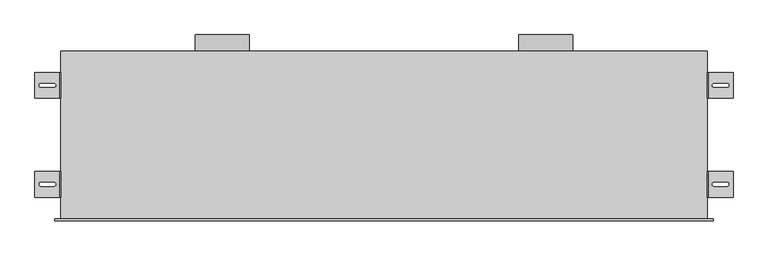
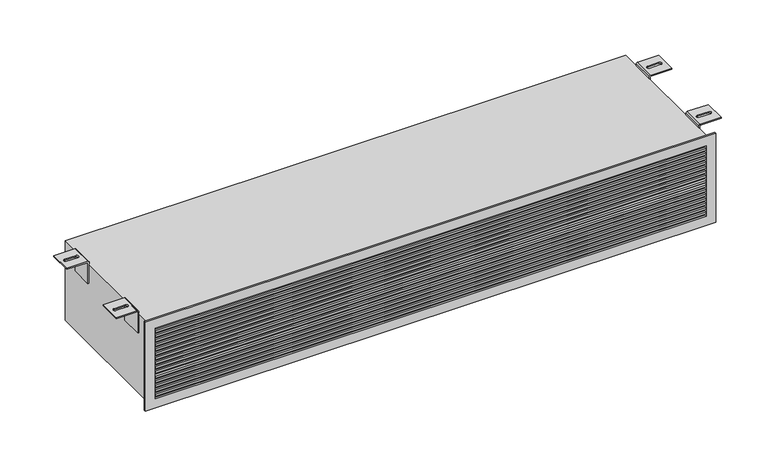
"""IFC4 building model written with IfcOpenShell, lengths in millimetres: air terminal geometry, EOL - Mural - 2 piquages : EOL-M2x125-1500x225-2."""

from ifc_helpers import new_model, si_unit, point, frame, frame_2d, origin, place, context, project, spatial, polyline, circle_curve, ellipse_curve, trimmed, segment, composite_curve, outline, extrude, source, transform, mapped, element, save
from ifc_brep_helpers import plane_surface, cylinder_surface, revolved_surface, extruded_surface, advanced_brep


def air_terminal_dda5334e(model_context):
    return source(origin(), model_context, "Body", "SolidModel", [
        advanced_brep(
        [(754.0013366, 110.0, 121.5), (810.0, 110.0, 121.5), (810.0, 110.0, 118.5), (754.0, 110.0, 118.5), (753.0, 110.0, 117.5), (753.0, 110.0, 58.5), (750.0, 110.0, 58.5), (750.0, 110.0, 117.4986634), (754.0013366, 50.0, 121.5), (750.0, 50.0, 117.4986634), (750.0, 50.0, 58.5), (753.0, 50.0, 58.5), (753.0, 50.0, 117.5), (754.0, 50.0, 118.5), (810.0, 50.0, 118.5), (810.0, 50.0, 121.5), (796.0287952, 75.4804328, 121.5), (766.0287952, 75.4804328, 121.5), (766.0287952, 84.4804328, 121.5), (796.0287952, 84.4804328, 121.5), (766.0287952, 75.4804328, 118.5), (796.0287952, 75.4804328, 118.5), (796.0287952, 84.4804328, 118.5), (766.0287952, 84.4804328, 118.5)],
        [
            (0, 1),
            (1, 2),
            (2, 3),
            (3, 4, circle_curve(frame((754.0, 110.0, 117.5), z_axis=(0.0, -1.0, 0.0), x_axis=(-1.0000000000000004, 0.0, 0.0)), 1.0)),
            (4, 5),
            (5, 6),
            (6, 7),
            (7, 0, circle_curve(frame((754.0013366, 110.0, 117.4986634), z_axis=(0.0, 1.0, 0.0), x_axis=(-1.0000000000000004, 0.0, 0.0)), 4.0013366)),
            (8, 9, circle_curve(frame((754.0013366, 50.0, 117.4986634), z_axis=(0.0, -1.0, 0.0), x_axis=(-1.0000000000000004, 0.0, 0.0)), 4.0013366)),
            (9, 10),
            (10, 11),
            (11, 12),
            (12, 13, circle_curve(frame((754.0, 50.0, 117.5), z_axis=(0.0, 1.0, 0.0), x_axis=(-1.0000000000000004, 0.0, 0.0)), 1.0)),
            (13, 14),
            (14, 15),
            (15, 8),
            (0, 8),
            (15, 1),
            (16, 17),
            (17, 18, circle_curve(frame((766.0287952, 79.9804328, 121.5), z_axis=(0.0, 0.0, -1.0), x_axis=(0.0, -1.0, 0.0)), 4.5)),
            (18, 19),
            (19, 16, circle_curve(frame((796.0287952, 79.9804328, 121.5), z_axis=(0.0, 0.0, -1.0), x_axis=(0.0, -1.0, 0.0)), 4.5)),
            (14, 2),
            (13, 3),
            (20, 21),
            (21, 22, ellipse_curve(frame((796.0287952, 79.9804328, 118.5), z_axis=(0.0, 0.0, 1.0), x_axis=(0.0, -1.0, 0.0)), 4.5, 4.5)),
            (22, 23),
            (23, 20, ellipse_curve(frame((766.0287952, 79.9804328, 118.5), z_axis=(0.0, 0.0, 1.0), x_axis=(0.0, -1.0, 0.0)), 4.5, 4.5)),
            (12, 4),
            (11, 5),
            (10, 6),
            (9, 7),
            (16, 21),
            (20, 17),
            (19, 22),
            (18, 23),
        ],
        [
            plane_surface(frame((810.0, 110.0, 121.5), z_axis=(0.0, 1.0, 0.0), x_axis=(1.0, 0.0, 0.0))),
            plane_surface(frame((810.0, 50.0, 121.5), z_axis=(0.0, -1.0, 0.0), x_axis=(-1.0, 0.0, 0.0))),
            plane_surface(frame((754.0013366, 110.0, 121.5), z_axis=(0.0, 0.0, 1.0), x_axis=(0.0, -1.0, 0.0))),
            plane_surface(frame((810.0, 110.0, 121.5), z_axis=(1.0, 0.0, 0.0), x_axis=(0.0, -1.0, 0.0))),
            plane_surface(frame((810.0, 110.0, 118.5), z_axis=(0.0, 0.0, -1.0), x_axis=(0.0, -1.0, 0.0))),
            revolved_surface(polyline([(753.0, 50.0, 117.5), (753.0, 110.00000000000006, 117.5)]), (754.0, 50.0, 117.5), (0.0, -1.0000000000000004, 0.0)),
            plane_surface(frame((753.0, 110.0, 117.5), z_axis=(1.0, 0.0, 0.0), x_axis=(0.0, -1.0, 0.0))),
            plane_surface(frame((753.0, 110.0, 58.5), z_axis=(0.0, 0.0, -1.0), x_axis=(0.0, -1.0, 0.0))),
            plane_surface(frame((750.0, 110.0, 58.5), z_axis=(-1.0, 0.0, 0.0), x_axis=(0.0, -1.0, 0.0))),
            cylinder_surface(frame((754.0013366, 50.0, 117.4986634), z_axis=(0.0, 1.0000000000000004, 0.0), x_axis=(-1.0000000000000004, 0.0, 0.0)), 4.0013366),
            plane_surface(frame((766.0287952, 75.4804328, 121.5), z_axis=(0.0, 1.0, 0.0), x_axis=(0.0, 0.0, -1.0))),
            extruded_surface(trimmed(ellipse_curve(frame((796.0287952, 79.9804328, 118.5), z_axis=(0.0, 0.0, 1.0), x_axis=(0.0, -1.0, 0.0)), 4.5, 4.5), [point((796.0287952, 75.4804328, 118.5))], [point((796.0287952, 84.4804328, 118.5))], True, "CARTESIAN"), (0.0, 0.0, -3.0), 3.0),
            plane_surface(frame((796.0287952, 84.4804328, 121.5), z_axis=(0.0, -1.0, 0.0), x_axis=(0.0, 0.0, -1.0))),
            extruded_surface(trimmed(ellipse_curve(frame((766.0287952, 79.9804328, 118.5), z_axis=(0.0, 0.0, 1.0), x_axis=(0.0, -1.0, 0.0)), 4.5, 4.5), [point((766.0287952, 84.4804328, 118.5))], [point((766.0287952, 75.4804328, 118.5))], True, "CARTESIAN"), (0.0, 0.0, -3.0), 3.0),
        ],
        [
            (0, [[1, 2, 3, 4, 5, 6, 7, 8]]),
            (1, [[9, 10, 11, 12, 13, 14, 15, 16]]),
            (2, [[-1, 17, -16, 18], [19, 20, 21, 22]]),
            (3, [[-2, -18, -15, 23]]),
            (4, [[-3, -23, -14, 24], [25, 26, 27, 28]]),
            (5, [[-4, -24, -13, 29]]),
            (6, [[-5, -29, -12, 30]]),
            (7, [[-6, -30, -11, 31]]),
            (8, [[-7, -31, -10, 32]]),
            (9, [[-8, -32, -9, -17]]),
            (10, [[33, -25, 34, -19]]),
            (11, [[-33, -22, 35, -26]]),
            (12, [[-35, -21, 36, -27]]),
            (13, [[-34, -28, -36, -20]]),
        ],
    ),
        advanced_brep(
        [(754.0013366, 340.0, 121.5), (810.0, 340.0, 121.5), (810.0, 340.0, 118.5), (754.0, 340.0, 118.5), (753.0, 340.0, 117.5), (753.0, 340.0, 58.5), (750.0, 340.0, 58.5), (750.0, 340.0, 117.4986634), (754.0013366, 280.0, 121.5), (750.0, 280.0, 117.4986634), (750.0, 280.0, 58.5), (753.0, 280.0, 58.5), (753.0, 280.0, 117.5), (754.0, 280.0, 118.5), (810.0, 280.0, 118.5), (810.0, 280.0, 121.5), (796.0287952, 305.4804328, 121.5), (766.0287952, 305.4804328, 121.5), (766.0287952, 314.4804328, 121.5), (796.0287952, 314.4804328, 121.5), (766.0287952, 305.4804328, 118.5), (796.0287952, 305.4804328, 118.5), (796.0287952, 314.4804328, 118.5), (766.0287952, 314.4804328, 118.5)],
        [
            (0, 1),
            (1, 2),
            (2, 3),
            (3, 4, circle_curve(frame((754.0, 340.0, 117.5), z_axis=(0.0, -1.0, 0.0), x_axis=(-1.0, 0.0, 0.0)), 1.0)),
            (4, 5),
            (5, 6),
            (6, 7),
            (7, 0, circle_curve(frame((754.0013366, 340.0, 117.4986634), z_axis=(0.0, 1.0, 0.0), x_axis=(-1.0, 0.0, 0.0)), 4.0013366)),
            (8, 9, circle_curve(frame((754.0013366, 280.0, 117.4986634), z_axis=(0.0, -1.0, 0.0), x_axis=(-1.0, 0.0, 0.0)), 4.0013366)),
            (9, 10),
            (10, 11),
            (11, 12),
            (12, 13, circle_curve(frame((754.0, 280.0, 117.5), z_axis=(0.0, 1.0, 0.0), x_axis=(-1.0, 0.0, 0.0)), 1.0)),
            (13, 14),
            (14, 15),
            (15, 8),
            (0, 8),
            (15, 1),
            (16, 17),
            (17, 18, circle_curve(frame((766.0287952, 309.9804328, 121.5), z_axis=(0.0, 0.0, -1.0), x_axis=(0.0, -1.0, 0.0)), 4.5)),
            (18, 19),
            (19, 16, circle_curve(frame((796.0287952, 309.9804328, 121.5), z_axis=(0.0, 0.0, -1.0), x_axis=(0.0, -1.0, 0.0)), 4.5)),
            (14, 2),
            (13, 3),
            (20, 21),
            (21, 22, ellipse_curve(frame((796.0287952, 309.9804328, 118.5), z_axis=(0.0, 0.0, 1.0), x_axis=(0.0, -1.0, 0.0)), 4.5, 4.5)),
            (22, 23),
            (23, 20, ellipse_curve(frame((766.0287952, 309.9804328, 118.5), z_axis=(0.0, 0.0, 1.0), x_axis=(0.0, -1.0, 0.0)), 4.5, 4.5)),
            (12, 4),
            (11, 5),
            (10, 6),
            (9, 7),
            (16, 21),
            (20, 17),
            (19, 22),
            (18, 23),
        ],
        [
            plane_surface(frame((810.0, 340.0, 121.5), z_axis=(0.0, 1.0, 0.0), x_axis=(1.0, 0.0, 0.0))),
            plane_surface(frame((810.0, 280.0, 121.5), z_axis=(0.0, -1.0, 0.0), x_axis=(-1.0, 0.0, 0.0))),
            plane_surface(frame((754.0013366, 340.0, 121.5), z_axis=(0.0, 0.0, 1.0), x_axis=(0.0, -1.0, 0.0))),
            plane_surface(frame((810.0, 340.0, 121.5), z_axis=(1.0, 0.0, 0.0), x_axis=(0.0, -1.0, 0.0))),
            plane_surface(frame((810.0, 340.0, 118.5), z_axis=(0.0, 0.0, -1.0), x_axis=(0.0, -1.0, 0.0))),
            revolved_surface(polyline([(753.0, 280.0, 117.5), (753.0, 340.0, 117.5)]), (754.0, 280.0, 117.5), (0.0, -1.0, 0.0)),
            plane_surface(frame((753.0, 340.0, 117.5), z_axis=(1.0, 0.0, 0.0), x_axis=(0.0, -1.0, 0.0))),
            plane_surface(frame((753.0, 340.0, 58.5), z_axis=(0.0, 0.0, -1.0), x_axis=(0.0, -1.0, 0.0))),
            plane_surface(frame((750.0, 340.0, 58.5), z_axis=(-1.0, 0.0, 0.0), x_axis=(0.0, -1.0, 0.0))),
            cylinder_surface(frame((754.0013366, 280.0, 117.4986634), z_axis=(0.0, 1.0, 0.0), x_axis=(-1.0, 0.0, 0.0)), 4.0013366),
            plane_surface(frame((766.0287952, 305.4804328, 121.5), z_axis=(0.0, 1.0, 0.0), x_axis=(0.0, 0.0, -1.0))),
            extruded_surface(trimmed(ellipse_curve(frame((796.0287952, 309.9804328, 118.5), z_axis=(0.0, 0.0, 1.0), x_axis=(0.0, -1.0, 0.0)), 4.5, 4.5), [point((796.0287952, 305.4804328, 118.5))], [point((796.0287952, 314.4804328, 118.5))], True, "CARTESIAN"), (0.0, 0.0, -3.0), 3.0),
            plane_surface(frame((796.0287952, 314.4804328, 121.5), z_axis=(0.0, -1.0, 0.0), x_axis=(0.0, 0.0, -1.0))),
            extruded_surface(trimmed(ellipse_curve(frame((766.0287952, 309.9804328, 118.5), z_axis=(0.0, 0.0, 1.0), x_axis=(0.0, -1.0, 0.0)), 4.5, 4.5), [point((766.0287952, 314.4804328, 118.5))], [point((766.0287952, 305.4804328, 118.5))], True, "CARTESIAN"), (0.0, 0.0, -3.0), 3.0),
        ],
        [
            (0, [[1, 2, 3, 4, 5, 6, 7, 8]]),
            (1, [[9, 10, 11, 12, 13, 14, 15, 16]]),
            (2, [[-1, 17, -16, 18], [19, 20, 21, 22]]),
            (3, [[-2, -18, -15, 23]]),
            (4, [[-3, -23, -14, 24], [25, 26, 27, 28]]),
            (5, [[-4, -24, -13, 29]]),
            (6, [[-5, -29, -12, 30]]),
            (7, [[-6, -30, -11, 31]]),
            (8, [[-7, -31, -10, 32]]),
            (9, [[-8, -32, -9, -17]]),
            (10, [[33, -25, 34, -19]]),
            (11, [[-33, -22, 35, -26]]),
            (12, [[-35, -21, 36, -27]]),
            (13, [[-34, -28, -36, -20]]),
        ],
    ),
        advanced_brep(
        [(-754.0013366, 50.0, 121.5), (-810.0, 50.0, 121.5), (-810.0, 50.0, 118.5), (-754.0, 50.0, 118.5), (-753.0, 50.0, 117.5), (-753.0, 50.0, 58.5), (-750.0, 50.0, 58.5), (-750.0, 50.0, 117.4986634), (-754.0013366, 110.0, 121.5), (-750.0, 110.0, 117.4986634), (-750.0, 110.0, 58.5), (-753.0, 110.0, 58.5), (-753.0, 110.0, 117.5), (-754.0, 110.0, 118.5), (-810.0, 110.0, 118.5), (-810.0, 110.0, 121.5), (-796.0287952, 84.5195672, 121.5), (-766.0287952, 84.5195672, 121.5), (-766.0287952, 75.5195672, 121.5), (-796.0287952, 75.5195672, 121.5), (-766.0287952, 84.5195672, 118.5), (-796.0287952, 84.5195672, 118.5), (-796.0287952, 75.5195672, 118.5), (-766.0287952, 75.5195672, 118.5)],
        [
            (0, 1),
            (1, 2),
            (2, 3),
            (3, 4, circle_curve(frame((-754.0, 50.0, 117.5), z_axis=(0.0, 1.0, 0.0), x_axis=(1.0, 0.0, 0.0)), 1.0)),
            (4, 5),
            (5, 6),
            (6, 7),
            (7, 0, circle_curve(frame((-754.0013366, 50.0, 117.4986634), z_axis=(0.0, -1.0, 0.0), x_axis=(1.0, 0.0, 0.0)), 4.0013366)),
            (8, 9, circle_curve(frame((-754.0013366, 110.0, 117.4986634), z_axis=(0.0, 1.0, 0.0), x_axis=(1.0, 0.0, 0.0)), 4.0013366)),
            (9, 10),
            (10, 11),
            (11, 12),
            (12, 13, circle_curve(frame((-754.0, 110.0, 117.5), z_axis=(0.0, -1.0, 0.0), x_axis=(1.0, 0.0, 0.0)), 1.0)),
            (13, 14),
            (14, 15),
            (15, 8),
            (0, 8),
            (15, 1),
            (16, 17),
            (17, 18, circle_curve(frame((-766.0287952, 80.0195672, 121.5), z_axis=(0.0, 0.0, -1.0), x_axis=(0.0, 1.0, 0.0)), 4.5)),
            (18, 19),
            (19, 16, circle_curve(frame((-796.0287952, 80.0195672, 121.5), z_axis=(0.0, 0.0, -1.0), x_axis=(0.0, 1.0, 0.0)), 4.5)),
            (14, 2),
            (13, 3),
            (20, 21),
            (21, 22, ellipse_curve(frame((-796.0287952, 80.0195672, 118.5), z_axis=(0.0, 0.0, 1.0), x_axis=(0.0, 1.0, 0.0)), 4.5, 4.5)),
            (22, 23),
            (23, 20, ellipse_curve(frame((-766.0287952, 80.0195672, 118.5), z_axis=(0.0, 0.0, 1.0), x_axis=(0.0, 1.0, 0.0)), 4.5, 4.5)),
            (12, 4),
            (11, 5),
            (10, 6),
            (9, 7),
            (16, 21),
            (20, 17),
            (19, 22),
            (18, 23),
        ],
        [
            plane_surface(frame((-810.0, 50.0, 121.5), z_axis=(0.0, -1.0, 0.0), x_axis=(-1.0, 0.0, 0.0))),
            plane_surface(frame((-810.0, 110.0, 121.5), z_axis=(0.0, 1.0, 0.0), x_axis=(1.0, 0.0, 0.0))),
            plane_surface(frame((-754.0013366, 50.0, 121.5), z_axis=(0.0, 0.0, 1.0), x_axis=(0.0, 1.0, 0.0))),
            plane_surface(frame((-810.0, 50.0, 121.5), z_axis=(-1.0, 0.0, 0.0), x_axis=(0.0, 1.0, 0.0))),
            plane_surface(frame((-810.0, 50.0, 118.5), z_axis=(0.0, 0.0, -1.0), x_axis=(0.0, 1.0, 0.0))),
            revolved_surface(polyline([(-753.0, 110.0, 117.5), (-753.0, 50.0, 117.5)]), (-754.0, 110.0, 117.5), (0.0, 1.0, 0.0)),
            plane_surface(frame((-753.0, 50.0, 117.5), z_axis=(-1.0, 0.0, 0.0), x_axis=(0.0, 1.0, 0.0))),
            plane_surface(frame((-753.0, 50.0, 58.5), z_axis=(0.0, 0.0, -1.0), x_axis=(0.0, 1.0, 0.0))),
            plane_surface(frame((-750.0, 50.0, 58.5), z_axis=(1.0, 0.0, 0.0), x_axis=(0.0, 1.0, 0.0))),
            cylinder_surface(frame((-754.0013366, 110.0, 117.4986634), z_axis=(0.0, -1.0, 0.0), x_axis=(1.0, 0.0, 0.0)), 4.0013366),
            plane_surface(frame((-766.0287952, 84.5195672, 121.5), z_axis=(0.0, -1.0, 0.0), x_axis=(0.0, 0.0, -1.0))),
            extruded_surface(trimmed(ellipse_curve(frame((-796.0287952, 80.0195672, 118.5), z_axis=(0.0, 0.0, 1.0), x_axis=(0.0, 1.0, 0.0)), 4.5, 4.5), [point((-796.0287952, 84.5195672, 118.5))], [point((-796.0287952, 75.5195672, 118.5))], True, "CARTESIAN"), (0.0, 0.0, -3.0), 3.0),
            plane_surface(frame((-796.0287952, 75.5195672, 121.5), z_axis=(0.0, 1.0, 0.0), x_axis=(0.0, 0.0, -1.0))),
            extruded_surface(trimmed(ellipse_curve(frame((-766.0287952, 80.0195672, 118.5), z_axis=(0.0, 0.0, 1.0), x_axis=(0.0, 1.0, 0.0)), 4.5, 4.5), [point((-766.0287952, 75.5195672, 118.5))], [point((-766.0287952, 84.5195672, 118.5))], True, "CARTESIAN"), (0.0, 0.0, -3.0), 3.0),
        ],
        [
            (0, [[1, 2, 3, 4, 5, 6, 7, 8]]),
            (1, [[9, 10, 11, 12, 13, 14, 15, 16]]),
            (2, [[-1, 17, -16, 18], [19, 20, 21, 22]]),
            (3, [[-2, -18, -15, 23]]),
            (4, [[-3, -23, -14, 24], [25, 26, 27, 28]]),
            (5, [[-4, -24, -13, 29]]),
            (6, [[-5, -29, -12, 30]]),
            (7, [[-6, -30, -11, 31]]),
            (8, [[-7, -31, -10, 32]]),
            (9, [[-8, -32, -9, -17]]),
            (10, [[33, -25, 34, -19]]),
            (11, [[-33, -22, 35, -26]]),
            (12, [[-35, -21, 36, -27]]),
            (13, [[-34, -28, -36, -20]]),
        ],
    ),
        advanced_brep(
        [(-754.0013366, 280.0, 121.5), (-810.0, 280.0, 121.5), (-810.0, 280.0, 118.5), (-754.0, 280.0, 118.5), (-753.0, 280.0, 117.5), (-753.0, 280.0, 58.5), (-750.0, 280.0, 58.5), (-750.0, 280.0, 117.4986634), (-754.0013366, 340.0, 121.5), (-750.0, 340.0, 117.4986634), (-750.0, 340.0, 58.5), (-753.0, 340.0, 58.5), (-753.0, 340.0, 117.5), (-754.0, 340.0, 118.5), (-810.0, 340.0, 118.5), (-810.0, 340.0, 121.5), (-796.0287952, 314.5195672, 121.5), (-766.0287952, 314.5195672, 121.5), (-766.0287952, 305.5195672, 121.5), (-796.0287952, 305.5195672, 121.5), (-766.0287952, 314.5195672, 118.5), (-796.0287952, 314.5195672, 118.5), (-796.0287952, 305.5195672, 118.5), (-766.0287952, 305.5195672, 118.5)],
        [
            (0, 1),
            (1, 2),
            (2, 3),
            (3, 4, circle_curve(frame((-754.0, 280.0, 117.5), z_axis=(0.0, 1.0, 0.0), x_axis=(1.0, 0.0, 0.0)), 1.0)),
            (4, 5),
            (5, 6),
            (6, 7),
            (7, 0, circle_curve(frame((-754.0013366, 280.0, 117.4986634), z_axis=(0.0, -1.0, 0.0), x_axis=(1.0, 0.0, 0.0)), 4.0013366)),
            (8, 9, circle_curve(frame((-754.0013366, 340.0, 117.4986634), z_axis=(0.0, 1.0, 0.0), x_axis=(1.0, 0.0, 0.0)), 4.0013366)),
            (9, 10),
            (10, 11),
            (11, 12),
            (12, 13, circle_curve(frame((-754.0, 340.0, 117.5), z_axis=(0.0, -1.0, 0.0), x_axis=(1.0, 0.0, 0.0)), 1.0)),
            (13, 14),
            (14, 15),
            (15, 8),
            (0, 8),
            (15, 1),
            (16, 17),
            (17, 18, circle_curve(frame((-766.0287952, 310.0195672, 121.5), z_axis=(0.0, 0.0, -1.0), x_axis=(0.0, 1.0, 0.0)), 4.5)),
            (18, 19),
            (19, 16, circle_curve(frame((-796.0287952, 310.0195672, 121.5), z_axis=(0.0, 0.0, -1.0), x_axis=(0.0, 1.0, 0.0)), 4.5)),
            (14, 2),
            (13, 3),
            (20, 21),
            (21, 22, ellipse_curve(frame((-796.0287952, 310.0195672, 118.5), z_axis=(0.0, 0.0, 1.0), x_axis=(0.0, 1.0, 0.0)), 4.5, 4.5)),
            (22, 23),
            (23, 20, ellipse_curve(frame((-766.0287952, 310.0195672, 118.5), z_axis=(0.0, 0.0, 1.0), x_axis=(0.0, 1.0, 0.0)), 4.5, 4.5)),
            (12, 4),
            (11, 5),
            (10, 6),
            (9, 7),
            (16, 21),
            (20, 17),
            (19, 22),
            (18, 23),
        ],
        [
            plane_surface(frame((-810.0, 280.0, 121.5), z_axis=(0.0, -1.0, 0.0), x_axis=(-1.0, 0.0, 0.0))),
            plane_surface(frame((-810.0, 340.0, 121.5), z_axis=(0.0, 1.0, 0.0), x_axis=(1.0, 0.0, 0.0))),
            plane_surface(frame((-754.0013366, 280.0, 121.5), z_axis=(0.0, 0.0, 1.0), x_axis=(0.0, 1.0, 0.0))),
            plane_surface(frame((-810.0, 280.0, 121.5), z_axis=(-1.0, 0.0, 0.0), x_axis=(0.0, 1.0, 0.0))),
            plane_surface(frame((-810.0, 280.0, 118.5), z_axis=(0.0, 0.0, -1.0), x_axis=(0.0, 1.0, 0.0))),
            revolved_surface(polyline([(-753.0, 340.0, 117.5), (-753.0, 280.0, 117.5)]), (-754.0, 340.0, 117.5), (0.0, 1.0, 0.0)),
            plane_surface(frame((-753.0, 280.0, 117.5), z_axis=(-1.0, 0.0, 0.0), x_axis=(0.0, 1.0, 0.0))),
            plane_surface(frame((-753.0, 280.0, 58.5), z_axis=(0.0, 0.0, -1.0), x_axis=(0.0, 1.0, 0.0))),
            plane_surface(frame((-750.0, 280.0, 58.5), z_axis=(1.0, 0.0, 0.0), x_axis=(0.0, 1.0, 0.0))),
            cylinder_surface(frame((-754.0013366, 340.0, 117.4986634), z_axis=(0.0, -1.0, 0.0), x_axis=(1.0, 0.0, 0.0)), 4.0013366),
            plane_surface(frame((-766.0287952, 314.5195672, 121.5), z_axis=(0.0, -1.0, 0.0), x_axis=(0.0, 0.0, -1.0))),
            extruded_surface(trimmed(ellipse_curve(frame((-796.0287952, 310.0195672, 118.5), z_axis=(0.0, 0.0, 1.0), x_axis=(0.0, 1.0, 0.0)), 4.5, 4.5), [point((-796.0287952, 314.5195672, 118.5))], [point((-796.0287952, 305.5195672, 118.5))], True, "CARTESIAN"), (0.0, 0.0, -3.0), 3.0),
            plane_surface(frame((-796.0287952, 305.5195672, 121.5), z_axis=(0.0, 1.0, 0.0), x_axis=(0.0, 0.0, -1.0))),
            extruded_surface(trimmed(ellipse_curve(frame((-766.0287952, 310.0195672, 118.5), z_axis=(0.0, 0.0, 1.0), x_axis=(0.0, 1.0, 0.0)), 4.5, 4.5), [point((-766.0287952, 305.5195672, 118.5))], [point((-766.0287952, 314.5195672, 118.5))], True, "CARTESIAN"), (0.0, 0.0, -3.0), 3.0),
        ],
        [
            (0, [[1, 2, 3, 4, 5, 6, 7, 8]]),
            (1, [[9, 10, 11, 12, 13, 14, 15, 16]]),
            (2, [[-1, 17, -16, 18], [19, 20, 21, 22]]),
            (3, [[-2, -18, -15, 23]]),
            (4, [[-3, -23, -14, 24], [25, 26, 27, 28]]),
            (5, [[-4, -24, -13, 29]]),
            (6, [[-5, -29, -12, 30]]),
            (7, [[-6, -30, -11, 31]]),
            (8, [[-7, -31, -10, 32]]),
            (9, [[-8, -32, -9, -17]]),
            (10, [[33, -25, 34, -19]]),
            (11, [[-33, -22, 35, -26]]),
            (12, [[-35, -21, 36, -27]]),
            (13, [[-34, -28, -36, -20]]),
        ],
    ),
        extrude(outline(composite_curve([segment(trimmed(circle_curve(frame_2d((0.0, 375.0)), 62.5), [point((0.0, 312.5))], [point((0.0, 437.5))], False, "CARTESIAN"), True, "CONTINUOUS"), segment(trimmed(circle_curve(frame_2d((0.0, 375.0)), 62.5), [point((0.0, 437.5))], [point((0.0, 312.5))], False, "CARTESIAN"), True, "CONTINUOUS")], self_intersect=False), holes=[composite_curve([segment(trimmed(circle_curve(frame_2d((0.0, 375.0)), 61.5), [point((0.0, 436.5))], [point((0.0, 313.5))], True, "CARTESIAN"), True, "CONTINUOUS"), segment(trimmed(circle_curve(frame_2d((0.0, 375.0)), 61.5), [point((0.0, 313.5))], [point((0.0, 436.5))], True, "CARTESIAN"), True, "CONTINUOUS")], self_intersect=False)]), frame((0.0, 390.0, 0.0), z_axis=(0.0, 1.0, 0.0), x_axis=(0.0, 0.0, 1.0)), (0.0, 0.0, 1.0), 37.5),
        extrude(outline(composite_curve([segment(trimmed(circle_curve(frame_2d((0.0, -375.0)), 62.5), [point((0.0, -437.5))], [point((0.0, -312.5))], False, "CARTESIAN"), True, "CONTINUOUS"), segment(trimmed(circle_curve(frame_2d((0.0, -375.0)), 62.5), [point((0.0, -312.5))], [point((0.0, -437.5))], False, "CARTESIAN"), True, "CONTINUOUS")], self_intersect=False), holes=[composite_curve([segment(trimmed(circle_curve(frame_2d((0.0, -375.0)), 61.5), [point((0.0, -313.5))], [point((0.0, -436.5))], True, "CARTESIAN"), True, "CONTINUOUS"), segment(trimmed(circle_curve(frame_2d((0.0, -375.0)), 61.5), [point((0.0, -436.5))], [point((0.0, -313.5))], True, "CARTESIAN"), True, "CONTINUOUS")], self_intersect=False)]), frame((0.0, 390.0, 0.0), z_axis=(0.0, 1.0, 0.0), x_axis=(0.0, 0.0, 1.0)), (0.0, 0.0, 1.0), 37.5),
        extrude(outline(polyline([(737.5, 0.0), (737.5, -5.0), (-737.5, -5.0), (-737.5, 0.0), (737.5, 0.0)])), frame((0.0, 0.0, 87.15), z_axis=(0.0, 0.0, 1.0), x_axis=(1.0, 0.0, 0.0)), (0.0, 0.0, 1.0), 5.6),
        extrude(outline(polyline([(737.5, 0.0), (737.5, -5.0), (-737.5, -5.0), (-737.5, 0.0), (737.5, 0.0)])), frame((0.0, 0.0, 74.3), z_axis=(0.0, 0.0, 1.0), x_axis=(1.0, 0.0, 0.0)), (0.0, 0.0, 1.0), 5.6),
        extrude(outline(polyline([(737.5, 0.0), (737.5, -5.0), (-737.5, -5.0), (-737.5, 0.0), (737.5, 0.0)])), frame((0.0, 0.0, 61.45), z_axis=(0.0, 0.0, 1.0), x_axis=(1.0, 0.0, 0.0)), (0.0, 0.0, 1.0), 5.6),
        extrude(outline(polyline([(737.5, 0.0), (737.5, -5.0), (-737.5, -5.0), (-737.5, 0.0), (737.5, 0.0)])), frame((0.0, 0.0, 48.6), z_axis=(0.0, 0.0, 1.0), x_axis=(1.0, 0.0, 0.0)), (0.0, 0.0, 1.0), 5.6),
        extrude(outline(polyline([(737.5, 0.0), (737.5, -5.0), (-737.5, -5.0), (-737.5, 0.0), (737.5, 0.0)])), frame((0.0, 0.0, 35.75), z_axis=(0.0, 0.0, 1.0), x_axis=(1.0, 0.0, 0.0)), (0.0, 0.0, 1.0), 5.6),
        extrude(outline(polyline([(737.5, 0.0), (737.5, -5.0), (-737.5, -5.0), (-737.5, 0.0), (737.5, 0.0)])), frame((0.0, 0.0, 22.9), z_axis=(0.0, 0.0, 1.0), x_axis=(1.0, 0.0, 0.0)), (0.0, 0.0, 1.0), 5.6),
        extrude(outline(polyline([(737.5, 0.0), (737.5, -5.0), (-737.5, -5.0), (-737.5, 0.0), (737.5, 0.0)])), frame((0.0, 0.0, 10.05), z_axis=(0.0, 0.0, 1.0), x_axis=(1.0, 0.0, 0.0)), (0.0, 0.0, 1.0), 5.6),
        extrude(outline(polyline([(737.5, 0.0), (737.5, -5.0), (-737.5, -5.0), (-737.5, 0.0), (737.5, 0.0)])), frame((0.0, 0.0, -2.8), z_axis=(0.0, 0.0, 1.0), x_axis=(1.0, 0.0, 0.0)), (0.0, 0.0, 1.0), 5.6),
        extrude(outline(polyline([(737.5, 0.0), (737.5, -5.0), (-737.5, -5.0), (-737.5, 0.0), (737.5, 0.0)])), frame((0.0, 0.0, -15.65), z_axis=(0.0, 0.0, 1.0), x_axis=(1.0, 0.0, 0.0)), (0.0, 0.0, 1.0), 5.6),
        extrude(outline(polyline([(737.5, 0.0), (737.5, -5.0), (-737.5, -5.0), (-737.5, 0.0), (737.5, 0.0)])), frame((0.0, 0.0, -28.5), z_axis=(0.0, 0.0, 1.0), x_axis=(1.0, 0.0, 0.0)), (0.0, 0.0, 1.0), 5.6),
        extrude(outline(polyline([(737.5, 0.0), (737.5, -5.0), (-737.5, -5.0), (-737.5, 0.0), (737.5, 0.0)])), frame((0.0, 0.0, -41.35), z_axis=(0.0, 0.0, 1.0), x_axis=(1.0, 0.0, 0.0)), (0.0, 0.0, 1.0), 5.6),
        extrude(outline(polyline([(737.5, 0.0), (737.5, -5.0), (-737.5, -5.0), (-737.5, 0.0), (737.5, 0.0)])), frame((0.0, 0.0, -54.2), z_axis=(0.0, 0.0, 1.0), x_axis=(1.0, 0.0, 0.0)), (0.0, 0.0, 1.0), 5.6),
        extrude(outline(polyline([(737.5, 0.0), (737.5, -5.0), (-737.5, -5.0), (-737.5, 0.0), (737.5, 0.0)])), frame((0.0, 0.0, -67.05), z_axis=(0.0, 0.0, 1.0), x_axis=(1.0, 0.0, 0.0)), (0.0, 0.0, 1.0), 5.6),
        extrude(outline(polyline([(737.5, 0.0), (737.5, -5.0), (-737.5, -5.0), (-737.5, 0.0), (737.5, 0.0)])), frame((0.0, 0.0, -79.9), z_axis=(0.0, 0.0, 1.0), x_axis=(1.0, 0.0, 0.0)), (0.0, 0.0, 1.0), 5.6),
        extrude(outline(polyline([(737.5, 0.0), (737.5, -5.0), (-737.5, -5.0), (-737.5, 0.0), (737.5, 0.0)])), frame((0.0, 0.0, -92.75), z_axis=(0.0, 0.0, 1.0), x_axis=(1.0, 0.0, 0.0)), (0.0, 0.0, 1.0), 5.6),
        extrude(outline(polyline([(126.0, 764.0), (126.0, -764.0), (-126.0, -764.0), (-126.0, 764.0), (126.0, 764.0)]), holes=[polyline([(100.0, 737.5), (-100.0, 737.5), (-100.0, -737.5), (100.0, -737.5), (100.0, 737.5)])]), frame((0.0, -5.0, 0.0), z_axis=(0.0, 1.0, 0.0), x_axis=(0.0, 0.0, 1.0)), (0.0, 0.0, 1.0), 5.0),
        advanced_brep(
        [(750.0, 390.0, 112.5), (-750.0, 390.0, 112.5), (-750.0, 0.0, 112.5), (750.0, 0.0, 112.5), (750.0, 390.0, -112.5), (750.0, 0.0, -112.5), (-750.0, 0.0, -112.5), (-750.0, 390.0, -112.5), (313.5, 390.0, 0.0), (436.5, 390.0, 0.0), (-436.5, 390.0, 0.0), (-313.5, 390.0, 0.0), (-745.0, 0.0, 107.5), (745.0, 0.0, 107.5), (745.0, 0.0, -107.5), (-745.0, 0.0, -107.5), (745.0, 385.0, 107.5), (-745.0, 385.0, 107.5), (745.0, 385.0, -107.5), (-745.0, 385.0, -107.5), (436.5, 385.0, 0.0), (313.5, 385.0, 0.0), (-313.5, 385.0, 0.0), (-436.5, 385.0, 0.0)],
        [
            (0, 1),
            (1, 2),
            (2, 3),
            (3, 0),
            (4, 5),
            (5, 6),
            (6, 7),
            (7, 4),
            (0, 4),
            (7, 1),
            (8, 9, circle_curve(frame((375.0, 390.0, 0.0), z_axis=(0.0, -1.0, 0.0), x_axis=(1.0, 0.0, 0.0)), 61.5)),
            (9, 8, circle_curve(frame((375.0, 390.0, 0.0), z_axis=(0.0, -1.0, 0.0), x_axis=(1.0, 0.0, 0.0)), 61.5)),
            (10, 11, circle_curve(frame((-375.0, 390.0, 0.0), z_axis=(0.0, -1.0, 0.0), x_axis=(1.0, 0.0, 0.0)), 61.5)),
            (11, 10, circle_curve(frame((-375.0, 390.0, 0.0), z_axis=(0.0, -1.0, 0.0), x_axis=(1.0, 0.0, 0.0)), 61.5)),
            (6, 2),
            (5, 3),
            (12, 13),
            (13, 14),
            (14, 15),
            (15, 12),
            (16, 13),
            (12, 17),
            (17, 16),
            (18, 19),
            (19, 15),
            (14, 18),
            (17, 19),
            (18, 16),
            (20, 21, circle_curve(frame((375.0, 385.0, 0.0), z_axis=(0.0, 1.0, 0.0), x_axis=(1.0, 0.0, 0.0)), 61.5)),
            (21, 20, circle_curve(frame((375.0, 385.0, 0.0), z_axis=(0.0, 1.0, 0.0), x_axis=(1.0, 0.0, 0.0)), 61.5)),
            (22, 23, circle_curve(frame((-375.0, 385.0, 0.0), z_axis=(0.0, 1.0, 0.0), x_axis=(1.0, 0.0, 0.0)), 61.5)),
            (23, 22, circle_curve(frame((-375.0, 385.0, 0.0), z_axis=(0.0, 1.0, 0.0), x_axis=(1.0, 0.0, 0.0)), 61.5)),
            (8, 21),
            (20, 9),
            (10, 23),
            (22, 11),
        ],
        [
            plane_surface(frame((-750.0, 390.0, 112.5), z_axis=(0.0, 0.0, 1.0), x_axis=(-1.0, 0.0, 0.0))),
            plane_surface(frame((-750.0, 390.0, -112.5), z_axis=(0.0, 0.0, -1.0), x_axis=(1.0, 0.0, 0.0))),
            plane_surface(frame((750.0, 390.0, 112.5), z_axis=(0.0, 1.0, 0.0), x_axis=(0.0, 0.0, -1.0))),
            plane_surface(frame((-750.0, 390.0, 112.5), z_axis=(-1.0, 0.0, 0.0), x_axis=(0.0, 0.0, -1.0))),
            plane_surface(frame((-750.0, 0.0, 112.5), z_axis=(0.0, -1.0, 0.0), x_axis=(0.0, 0.0, -1.0))),
            plane_surface(frame((750.0, 0.0, 112.5), z_axis=(1.0, 0.0, 0.0), x_axis=(0.0, 0.0, -1.0))),
            plane_surface(frame((-745.0, 385.0, 107.5), z_axis=(0.0, 0.0, -1.0), x_axis=(-1.0, 0.0, 0.0))),
            plane_surface(frame((-745.0, 385.0, -107.5), z_axis=(0.0, 0.0, 1.0), x_axis=(1.0, 0.0, 0.0))),
            plane_surface(frame((745.0, 385.0, 107.5), z_axis=(0.0, -1.0, 0.0), x_axis=(0.0, 0.0, -1.0))),
            plane_surface(frame((-745.0, 385.0, 107.5), z_axis=(1.0, 0.0, 0.0), x_axis=(0.0, 0.0, -1.0))),
            plane_surface(frame((745.0, 0.0, 107.5), z_axis=(-1.0, 0.0, 0.0), x_axis=(0.0, 0.0, -1.0))),
            revolved_surface(polyline([(436.5, 385.0, 0.0), (436.5, 390.0, 0.0)]), (375.0, 427.5, 0.0), (0.0, -1.0, 0.0)),
            revolved_surface(polyline([(-313.5, 385.0, 0.0), (-313.5, 390.0, 0.0)]), (-375.0, 0.0, 0.0), (0.0, -1.0, 0.0)),
        ],
        [
            (0, [[1, 2, 3, 4]]),
            (1, [[5, 6, 7, 8]]),
            (2, [[-1, 9, -8, 10], [11, 12], [13, 14]]),
            (3, [[-2, -10, -7, 15]]),
            (4, [[-3, -15, -6, 16], [17, 18, 19, 20]]),
            (5, [[-4, -16, -5, -9]]),
            (6, [[21, -17, 22, 23]]),
            (7, [[24, 25, -19, 26]]),
            (8, [[-23, 27, -24, 28], [29, 30], [31, 32]]),
            (9, [[-22, -20, -25, -27]]),
            (10, [[-21, -28, -26, -18]]),
            (11, [[33, -29, 34, -11]]),
            (11, [[-33, -12, -34, -30]]),
            (12, [[35, -31, 36, -13]]),
            (12, [[-35, -14, -36, -32]]),
        ],
    ),
    ])


if __name__ == "__main__":
    model = new_model("IFC4")
    model_context = context("Model", 3, world=origin())
    ifc_project = project(units=[si_unit("LENGTHUNIT", "METRE", prefix="MILLI")], contexts=[model_context])
    site = spatial("IfcSite", under=ifc_project)
    building = spatial("IfcBuilding", under=site)
    placement = place(None, origin())
    air_terminal_shape = air_terminal_dda5334e(model_context)
    element("IfcAirTerminal", 1, ObjectType="EOL - Mural - 2 piquages : EOL-M2x125-1500x225-2", at=placement, inside=building, context=model_context, shape_type="MappedRepresentation", body=[
        mapped(air_terminal_shape, transform((0.0, 0.0, 0.0), x_axis=(1.0, 0.0, 0.0), y_axis=(0.0, 1.0, 0.0), z_axis=(0.0, 0.0, 1.0))),
    ])
    save(model, "model.ifc")
